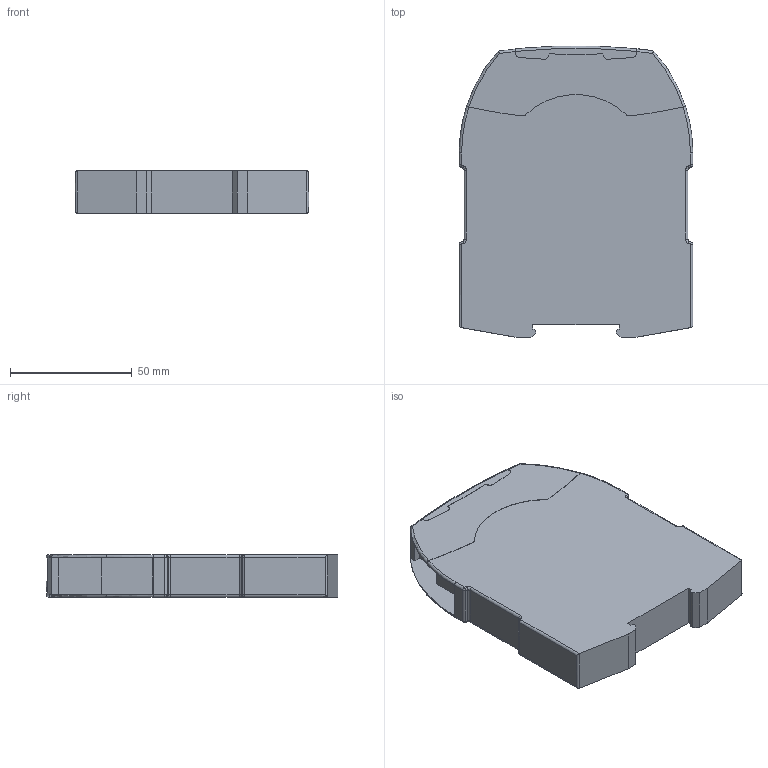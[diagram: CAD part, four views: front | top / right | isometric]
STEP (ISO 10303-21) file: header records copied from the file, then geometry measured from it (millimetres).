
FILE_DESCRIPTION((''),'2;1');
FILE_NAME('2002214','2010-07-13T',('merz'),(''),'PRO/ENGINEER BY PARAMETRIC TECHNOLOGY CORPORATION, 2009380','PRO/ENGINEER BY PARAMETRIC TECHNOLOGY CORPORATION, 2009380','');
FILE_SCHEMA(('AUTOMOTIVE_DESIGN_CC2 { 1 2 10303 214 -1 1 5 2 }'));
Length unit declared in the file: millimetre
Products named in the file (1): 2002214
Bounding box: 96 x 119.98 x 17.5 mm (x, y, z)
Volume: 172378.3 mm3; surface area: 30216.8 mm2
Topology: 1 solids, 1 shells, 197 faces, 542 edges, 380 vertices
Faces by surface type: plane 89, cylinder 74, torus 26, sphere 8
Entity records: 8284 total; most frequent: CARTESIAN_POINT 1556, DIRECTION 1038, ORIENTED_EDGE 1032, PRESENTATION_STYLE_ASSIGNMENT 548, STYLED_ITEM 543, CURVE_STYLE 542, EDGE_CURVE 516, AXIS2_PLACEMENT_3D 368
